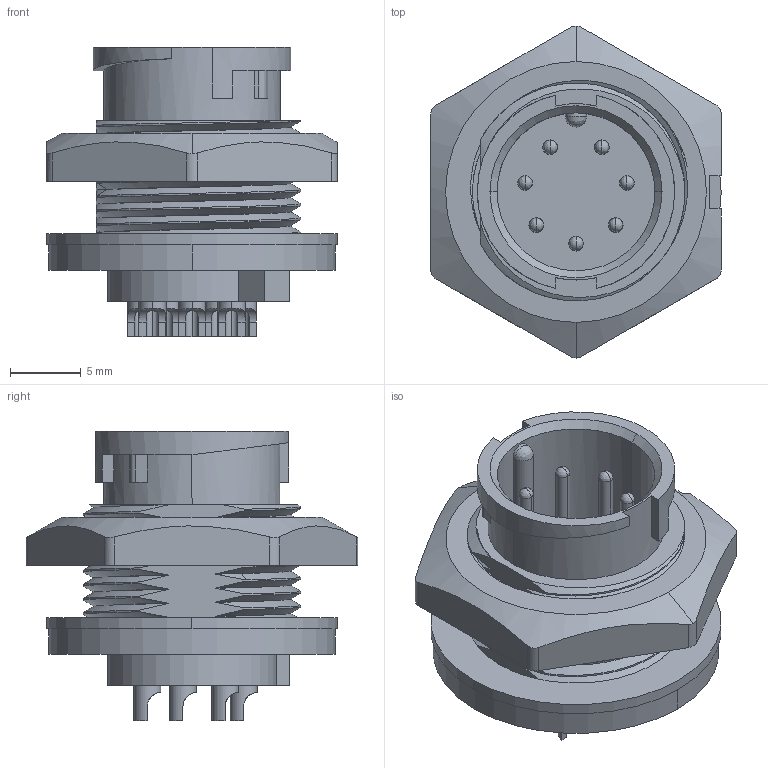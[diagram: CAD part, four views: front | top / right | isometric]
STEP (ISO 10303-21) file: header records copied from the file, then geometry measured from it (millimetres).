
FILE_DESCRIPTION (( 'STEP AP203' ), '1' );
FILE_NAME ('869-007-103R001.STEP', '2024-06-14T18:30:05', ( '' ), ( '' ), 'SwSTEP 2.0', 'SolidWorks 2020', '' );
FILE_SCHEMA (( 'CONFIG_CONTROL_DESIGN' ));
Length unit declared in the file: millimetre
Products named in the file (1): 869-007-103R001
Bounding box: 20.6 x 23.54 x 20.5 mm (x, y, z)
Volume: 2674.2 mm3; surface area: 3769.1 mm2
Topology: 2 solids, 2 shells, 320 faces, 825 edges, 492 vertices
Faces by surface type: cylinder 130, plane 71, cone 61, bspline 58
Entity records: 16088 total; most frequent: CARTESIAN_POINT 8929, ORIENTED_EDGE 1562, DIRECTION 1331, EDGE_CURVE 781, AXIS2_PLACEMENT_3D 525, VERTEX_POINT 492, EDGE_LOOP 349, FACE_OUTER_BOUND 320
